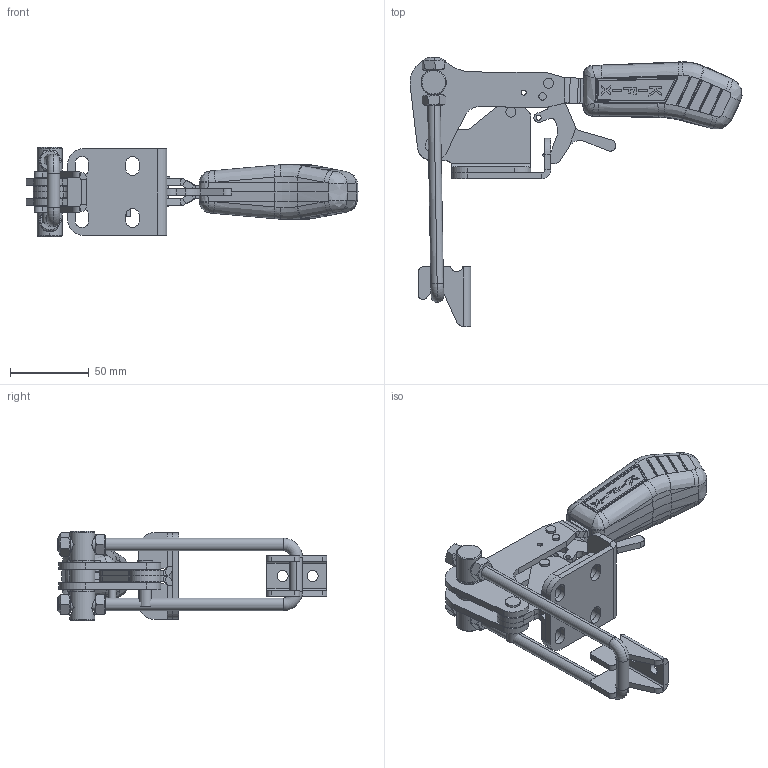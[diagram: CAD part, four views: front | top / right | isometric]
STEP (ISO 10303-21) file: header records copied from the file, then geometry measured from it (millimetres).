
FILE_DESCRIPTION (( 'STEP AP203' ), '1' );
FILE_NAME ('KF-263 TR.STEP', '2018-06-12T17:28:21', ( 'Ricardo' ), ( '' ), 'SwSTEP 2.0', 'SolidWorks 2018', '' );
FILE_SCHEMA (( 'CONFIG_CONTROL_DESIGN' ));
Length unit declared in the file: millimetre
Products named in the file (17): 06.50030; 11.50017; 06.50026; 11.50002; 07.60002; 15.10030; 02.12054_Direita; 18.10021; 02.12054_Esquerda; 3670000145; 01.10136_Montagem; 3670000092; 01.10136_Esquerda; 02.10071; 16.20038; KF-263 TR; 03.20029
Assembly tree (18 placements, depth 2):
  KF-263 TR
    02.12054_Direita
    02.12054_Esquerda
    01.10136_Montagem
    01.10136_Esquerda
    16.20038
    03.20029
    11.50017  x2
    11.50002  x2
    15.10030
    06.50030
    06.50026
    07.60002
    18.10021
    3670000145
    3670000092
    02.10071
Bounding box: 210.56 x 170.96 x 56.5 mm (x, y, z)
Volume: 198559.9 mm3; surface area: 87445.9 mm2
Topology: 18 solids, 18 shells, 795 faces, 2016 edges, 1269 vertices
Faces by surface type: plane 306, cylinder 229, bspline 165, sphere 52, cone 36, torus 7
Entity records: 29261 total; most frequent: CARTESIAN_POINT 10328, ORIENTED_EDGE 3828, DIRECTION 3163, EDGE_CURVE 1914, VERTEX_POINT 1209, AXIS2_PLACEMENT_3D 1195, EDGE_LOOP 851, LINE 773
